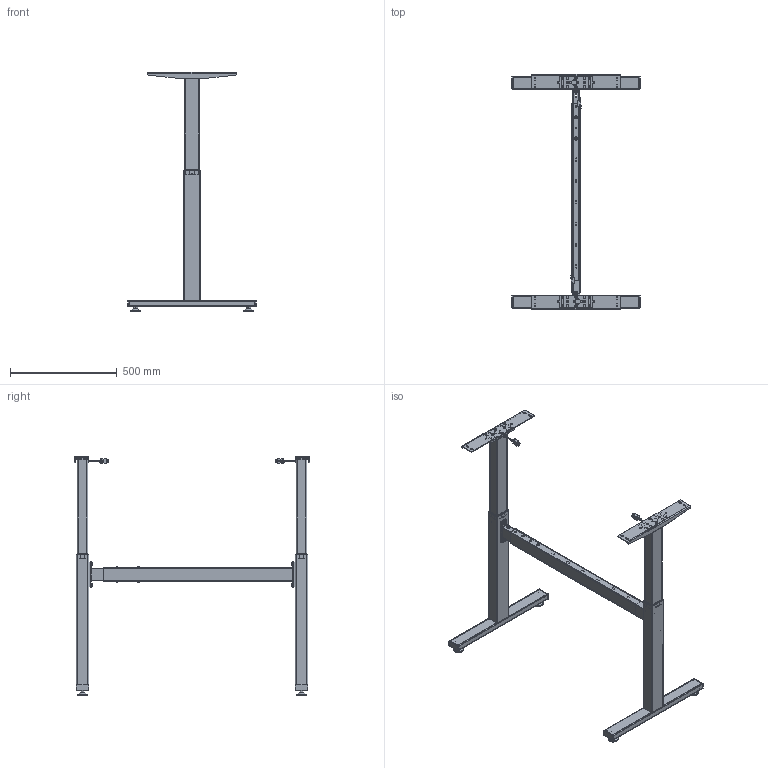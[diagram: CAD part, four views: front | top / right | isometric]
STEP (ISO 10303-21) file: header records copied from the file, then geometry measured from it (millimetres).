
FILE_DESCRIPTION(/* description */ ('Unknown'),/* implementation_level */ '2;1');
FILE_NAME(/* name */ 'Untergestell SA 2942 900-1550 XX XX_00-Ausgefahren',/* time_stamp */ '2025-09-26T17:00:45+02:00',/* author */ ('Unknown'),/* organization */ ('Unknown'),/* preprocessor_version */ 'ST-DEVELOPER v20',/* originating_system */ 'Solid Edge',/* authorisation */ 'Unknown');
FILE_SCHEMA (('AUTOMOTIVE_DESIGN {1 0 10303 214 3 1 1}'));
Length unit declared in the file: millimetre
Products named in the file (36): Untergestell SA 2942 900-1550 XX XX; 921.00001_oa_0; 126.00168; Kabel Molex_kurz; 124.00129; 128.00085; 127.00446; 127.00446_Innenprofil; 127.00446_Flansch; 124.00241_oa_1; 127.00447_oa_2; 127.00447_Aussenprofil; 127.00447_Anschweissplatte; 142.00077; 921.00001_oa_3; 124.00241_oa_4; 127.00447_oa_5; 127.00632; 096611~1; 096612~1; Sechskantmutter M6 DIN 934; Scheibe Ø6,4 DIN 125; Halbrundkopfschraube mit Innensechskant M8x12 ISO 7380-1; Scheibe Ø8,4 DIN 125; Nutenstein M8_montiert; Halbrundkopfschraube mit Innensechskant und Bund M6x16 ISO 7380-2; 127.00073; 127.00069; 113.00006; 113.00006-ohne Mutter; Mutter M10; 142.00018; 142.00078; 142.00095; 115.00160; 127.00401
Assembly tree (81 placements, depth 4):
  Untergestell SA 2942 900-1550 XX XX
    921.00001_oa_0
      126.00168
      Kabel Molex_kurz
      124.00129
      128.00085
      127.00446
        127.00446_Innenprofil
        127.00446_Flansch
      124.00241_oa_1
      127.00447_oa_2
        127.00447_Aussenprofil
        127.00447_Anschweissplatte
      142.00077  x4
    921.00001_oa_3
      126.00168
      Kabel Molex_kurz
      124.00129
      128.00085
      127.00446
        127.00446_Innenprofil
        127.00446_Flansch
      124.00241_oa_4
      127.00447_oa_5
        127.00447_Aussenprofil
        127.00447_Anschweissplatte
      142.00077  x4
    127.00632
      096611~1
      096612~1
      Sechskantmutter M6 DIN 934  x4
      Scheibe Ø6,4 DIN 125  x4
      Halbrundkopfschraube mit Innensechskant M8x12 ISO 7380-1  x4
      Scheibe Ø8,4 DIN 125  x4
      Nutenstein M8_montiert  x4
      Halbrundkopfschraube mit Innensechskant und Bund M6x16 ISO 7380-2  x4
    127.00073  x2
      127.00069
      113.00006
        113.00006-ohne Mutter
        Mutter M10
      142.00018
      142.00078
      142.00095
    115.00160  x2
      127.00401
      142.00077
Bounding box: 600 x 1102 x 1122 mm (x, y, z)
Volume: 2952495.2 mm3; surface area: 2513792.1 mm2
Topology: 90 solids, 90 shells, 3102 faces, 7882 edges, 5094 vertices
Faces by surface type: plane 1722, cylinder 888, torus 198, cone 154, bspline 120, sphere 20
Full cylindrical faces by diameter (mm): 3 x4, 3.2 x4, 4.5 x4, 4.917 x16, 5 x2, 6 x34, 6.4 x20, 6.5 x8, 6.647 x8, 7 x12, 8 x8, 8.376 x8, 8.5 x16, 9 x2, 9.5 x4, 10 x20, 11 x8, 12 x4, 13 x8, 13.6 x4, 14 x4, 15 x16, 16.8 x4, 19 x4, 24.5 x2, 25 x4, 29 x4, 35 x4, 39 x4, 47 x4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
Entity records: 45660 total; most frequent: CARTESIAN_POINT 9268, DIRECTION 6352, ORIENTED_EDGE 6186, EDGE_CURVE 3093, AXIS2_PLACEMENT_3D 2215, VERTEX_POINT 2091, LINE 1922, VECTOR 1922
